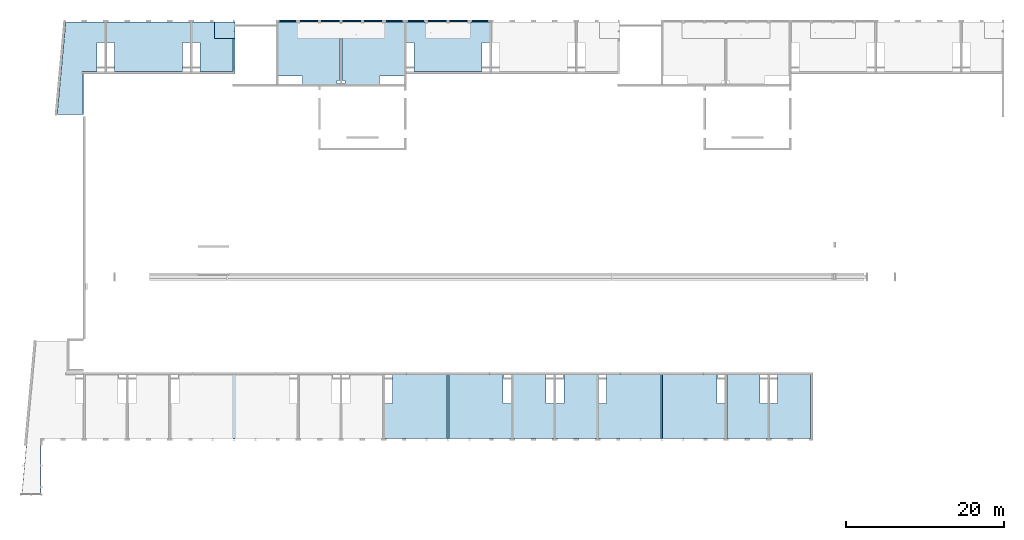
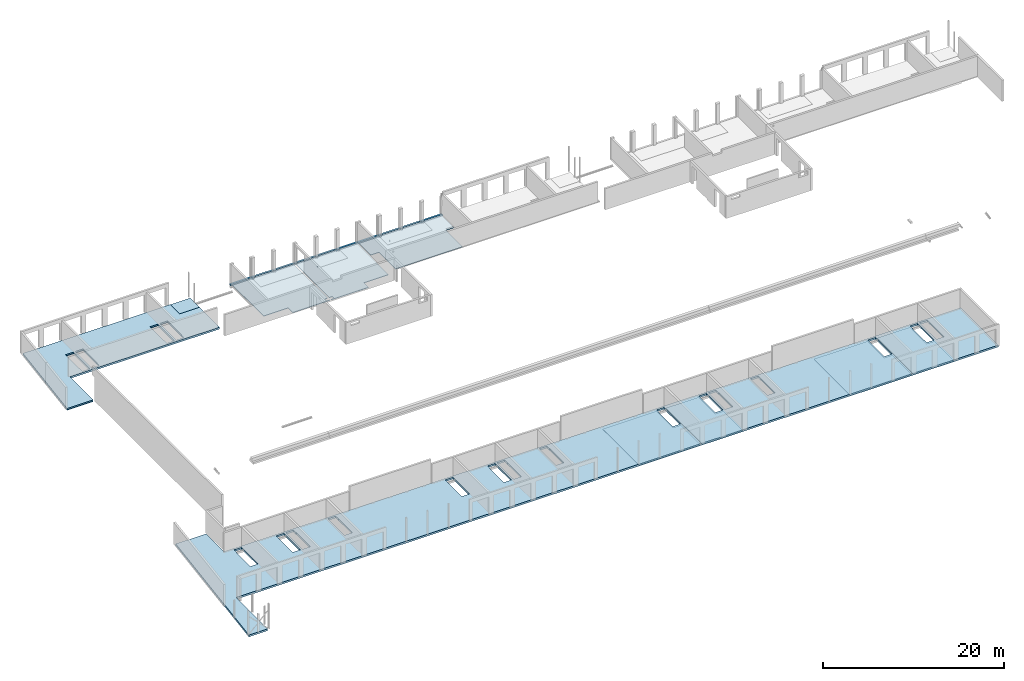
# One storey, part 12 of 22: 22 slabs, 41 openings.
"""IFC2X3 building model written with IfcOpenShell, lengths in millimetres."""

from ifc_helpers import new_model, entity, si_unit, converted_unit, derived_unit, direction, frame, frame_2d, origin, origin_2d_with_axis, place, context, subcontext, project, spatial, polyline, rectangle, circle, outline, extrude, material, layer, layer_set, layer_usage, element, save


model = new_model("IFC2X3")

# Units and contexts
model_context = context("Model", 3, precision=0.01, world=origin(), true_north=direction((6.12303176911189e-17, 1.0)))
body_context = subcontext(model_context, "Body", "Model", "MODEL_VIEW")
ifc_project = project(units=[si_unit("LENGTHUNIT", "METRE", prefix="MILLI"), si_unit("AREAUNIT", "SQUARE_METRE"), si_unit("VOLUMEUNIT", "CUBIC_METRE"), converted_unit("PLANEANGLEUNIT", "DEGREE", entity("IfcRatioMeasure", 0.0174532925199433), si_unit("PLANEANGLEUNIT", "RADIAN"), dimensions=[0, 0, 0, 0, 0, 0, 0]), si_unit("MASSUNIT", "GRAM", prefix="KILO"), derived_unit("MASSDENSITYUNIT", [(si_unit("MASSUNIT", "GRAM", prefix="KILO"), 1), (si_unit("LENGTHUNIT", "METRE"), -3)]), si_unit("TIMEUNIT", "SECOND"), si_unit("FREQUENCYUNIT", "HERTZ"), si_unit("THERMODYNAMICTEMPERATUREUNIT", "DEGREE_CELSIUS"), derived_unit("THERMALTRANSMITTANCEUNIT", [(si_unit("MASSUNIT", "GRAM", prefix="KILO"), 1), (si_unit("THERMODYNAMICTEMPERATUREUNIT", "KELVIN"), -1), (si_unit("TIMEUNIT", "SECOND"), -3)]), derived_unit("VOLUMETRICFLOWRATEUNIT", [(si_unit("LENGTHUNIT", "METRE"), 3), (si_unit("TIMEUNIT", "SECOND"), -1)]), si_unit("ELECTRICCURRENTUNIT", "AMPERE"), si_unit("ELECTRICVOLTAGEUNIT", "VOLT"), si_unit("POWERUNIT", "WATT"), si_unit("FORCEUNIT", "NEWTON", prefix="KILO"), si_unit("ILLUMINANCEUNIT", "LUX"), si_unit("LUMINOUSFLUXUNIT", "LUMEN"), si_unit("LUMINOUSINTENSITYUNIT", "CANDELA"), derived_unit("USERDEFINED", [(si_unit("MASSUNIT", "GRAM", prefix="KILO"), -1), (si_unit("LENGTHUNIT", "METRE"), -2), (si_unit("TIMEUNIT", "SECOND"), 3), (si_unit("LUMINOUSFLUXUNIT", "LUMEN"), 1)]), derived_unit("LINEARVELOCITYUNIT", [(si_unit("LENGTHUNIT", "METRE"), 1), (si_unit("TIMEUNIT", "SECOND"), -1)]), si_unit("PRESSUREUNIT", "PASCAL"), derived_unit("USERDEFINED", [(si_unit("LENGTHUNIT", "METRE"), -2), (si_unit("MASSUNIT", "GRAM", prefix="KILO"), 1), (si_unit("TIMEUNIT", "SECOND"), -2)])], contexts=[model_context])

# Site, building, storey
site_placement = place(None, origin())
site = spatial("IfcSite", under=ifc_project, at=site_placement, Name="Default", CompositionType="ELEMENT")
building_placement = place(site_placement, origin())
building = spatial("IfcBuilding", under=site, at=building_placement, Name="niet gebruiken", CompositionType="ELEMENT")
storey_placement = place(building_placement, frame((0.0, 0.0, 9630.0)))
storey = spatial("IfcBuildingStorey", under=building, at=storey_placement, Name="03 derde verdieping", CompositionType="ELEMENT", Elevation=9630.00000000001)

# Slab, openings
ifc_material_1 = material(Name="NLRS_f2_beton ihwg")
ifc_layer_1 = layer(ifc_material_1, 250.0)
ifc_layer_set_1 = layer_set([ifc_layer_1], Name="Floor:NLRS_23.21_FL_breedplaat d=70/250_schil apart_gen")
ifc_layer_usage_1 = layer_usage(ifc_layer_set_1, "AXIS3", "POSITIVE", 0.0)
slab_1_placement = place(storey_placement, frame((4646.95563217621, 41336.0, -340.0)))
slab_1 = element("IfcSlab", 1, at=slab_1_placement, inside=storey, material=ifc_layer_usage_1, Name="Floor:NLRS_23.21_FL_breedplaat d=70/250_schil apart_gen", ObjectType="Floor:NLRS_23.21_FL_breedplaat d=70/250_schil apart_gen", PredefinedType="FLOOR", context=body_context, shape_type="SweptSolid", body=[
    extrude(outline(polyline([(10144.7710298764, 5835.0), (-8671.52218391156, 5835.0), (-8671.52218391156, 3755.0), (-11226.5221839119, 3755.0), (-11226.5221839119, -675.0), (7898.4778160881, -675.0), (7898.47781608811, -5835.0), (11226.5221839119, -5835.0), (10144.7710298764, 5835.0)])), frame((11226.5221839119, 5835.0, 250.0), z_axis=(0.0, 0.0, -1.0), x_axis=(-1.0, 0.0, 0.0)), (0.0, 0.0, 1.0), 249.999999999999),
])
opening_1_placement = place(slab_1_placement, origin())
element("IfcOpeningElement", 2, at=opening_1_placement, cuts=slab_1, ObjectType="Opening", context=body_context, shape_type="SweptSolid", body=[
    extrude(rectangle(XDim=580.000000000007, YDim=970.0, at=origin_2d_with_axis()), frame((6763.04436782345, 5700.0, 0.0), z_axis=(0.0, 0.0, 1.0), x_axis=(0.0, -1.0, 0.0)), (0.0, 0.0, 1.0), 249.999999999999),
])
opening_2_placement = place(slab_1_placement, origin())
element("IfcOpeningElement", 3, at=opening_2_placement, cuts=slab_1, ObjectType="Opening", context=body_context, shape_type="SweptSolid", body=[
    extrude(rectangle(XDim=1000.0, YDim=3100.00000000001, at=origin_2d_with_axis()), frame((6778.04436782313, 7540.0, 0.0), z_axis=(0.0, 0.0, 1.0), x_axis=(-1.0, 0.0, 0.0)), (0.0, 0.0, 1.0), 250.000000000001),
])
opening_3_placement = place(slab_1_placement, origin())
element("IfcOpeningElement", 4, at=opening_3_placement, cuts=slab_1, ObjectType="Opening", context=body_context, shape_type="SweptSolid", body=[
    extrude(rectangle(XDim=580.000000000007, YDim=970.000000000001, at=origin_2d_with_axis()), frame((5543.04436782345, 5700.0, 0.0), z_axis=(0.0, 0.0, 1.0), x_axis=(0.0, -1.0, 0.0)), (0.0, 0.0, 1.0), 249.999999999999),
])
opening_4_placement = place(slab_1_placement, origin())
element("IfcOpeningElement", 5, at=opening_4_placement, cuts=slab_1, ObjectType="Opening", context=body_context, shape_type="SweptSolid", body=[
    extrude(rectangle(XDim=1000.0, YDim=3100.00000000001, at=origin_2d_with_axis()), frame((5528.04436782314, 7540.0, 0.0), z_axis=(0.0, 0.0, 1.0), x_axis=(-1.0, 0.0, 0.0)), (0.0, 0.0, 1.0), 250.000000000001),
])
opening_5_placement = place(slab_1_placement, origin())
element("IfcOpeningElement", 6, at=opening_5_placement, cuts=slab_1, ObjectType="Opening", context=body_context, shape_type="SweptSolid", body=[
    extrude(rectangle(XDim=580.000000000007, YDim=970.0, at=origin_2d_with_axis()), frame((17563.0443678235, 5700.0, 0.0), z_axis=(0.0, 0.0, 1.0), x_axis=(0.0, -1.0, 0.0)), (0.0, 0.0, 1.0), 249.999999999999),
])
opening_6_placement = place(slab_1_placement, origin())
element("IfcOpeningElement", 7, at=opening_6_placement, cuts=slab_1, ObjectType="Opening", context=body_context, shape_type="SweptSolid", body=[
    extrude(rectangle(XDim=1000.0, YDim=3100.00000000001, at=origin_2d_with_axis()), frame((17578.0443678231, 7540.0, 0.0), z_axis=(0.0, 0.0, 1.0), x_axis=(-1.0, 0.0, 0.0)), (0.0, 0.0, 1.0), 250.000000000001),
])
opening_7_placement = place(slab_1_placement, origin())
element("IfcOpeningElement", 8, at=opening_7_placement, cuts=slab_1, ObjectType="Opening", context=body_context, shape_type="SweptSolid", body=[
    extrude(rectangle(XDim=1000.0, YDim=3100.00000000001, at=origin_2d_with_axis()), frame((16328.0443678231, 7540.0, 0.0), z_axis=(0.0, 0.0, 1.0), x_axis=(-1.0, 0.0, 0.0)), (0.0, 0.0, 1.0), 250.000000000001),
])
opening_8_placement = place(slab_1_placement, origin())
element("IfcOpeningElement", 9, at=opening_8_placement, cuts=slab_1, ObjectType="Opening", context=body_context, shape_type="SweptSolid", body=[
    extrude(rectangle(XDim=580.000000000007, YDim=970.0, at=origin_2d_with_axis()), frame((16343.0443678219, 5700.0, 0.0), z_axis=(0.0, 0.0, 1.0), x_axis=(0.0, -1.0, 0.0)), (0.0, 0.0, 1.0), 249.999999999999),
])

ifc_layer_usage_2 = layer_usage(ifc_layer_set_1, "AXIS3", "POSITIVE", 0.0)
slab_2_placement = place(storey_placement, frame((205.382258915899, -6580.0, -340.0)))
slab_2 = element("IfcSlab", 10, at=slab_2_placement, inside=storey, material=ifc_layer_usage_2, Name="Floor:NLRS_23.21_FL_breedplaat d=70/250_schil apart_gen", ObjectType="Floor:NLRS_23.21_FL_breedplaat d=70/250_schil apart_gen", PredefinedType="FLOOR", context=body_context, shape_type="SweptSolid", body=[
    extrude(outline(polyline([(50293.3272470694, -7627.45000057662), (48505.1598974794, 11663.5499994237), (44623.7095059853, 11663.5499994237), (44623.7095059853, 7698.54999942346), (-49526.2904940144, 7698.54999942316), (-49526.2904940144, -647.450000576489), (47898.7095059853, -647.450000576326), (47898.7095059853, -7627.45000057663), (50293.3272470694, -7627.45000057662)])), frame((50293.3272470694, 7627.45000057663, 250.0), z_axis=(0.0, 0.0, -1.0), x_axis=(-1.0, 0.0, 0.0)), (0.0, 0.0, 1.0), 250.000000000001),
])
opening_9_placement = place(slab_2_placement, origin())
element("IfcOpeningElement", 11, at=opening_9_placement, cuts=slab_2, ObjectType="Opening", context=body_context, shape_type="SweptSolid", body=[
    extrude(rectangle(XDim=3100.0, YDim=1000.0, at=origin_2d_with_axis()), frame((7269.61774108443, 12946.0, 0.0), z_axis=(0.0, 0.0, 1.0), x_axis=(0.0, 1.0, 0.0)), (0.0, 0.0, 1.0), 250.000000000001),
])
opening_10_placement = place(slab_2_placement, origin())
element("IfcOpeningElement", 12, at=opening_10_placement, cuts=slab_2, ObjectType="Opening", context=body_context, shape_type="SweptSolid", body=[
    extrude(rectangle(XDim=970.000000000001, YDim=580.000000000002, at=origin_2d_with_axis()), frame((7284.61774108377, 14786.0, 0.0)), (0.0, 0.0, 1.0), 249.999999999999),
])
opening_11_placement = place(slab_2_placement, origin())
element("IfcOpeningElement", 13, at=opening_11_placement, cuts=slab_2, ObjectType="Opening", context=body_context, shape_type="SweptSolid", body=[
    extrude(rectangle(XDim=3100.0, YDim=1000.0, at=origin_2d_with_axis()), frame((12669.6177410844, 12946.0, 0.0), z_axis=(0.0, 0.0, 1.0), x_axis=(0.0, 1.0, 0.0)), (0.0, 0.0, 1.0), 250.000000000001),
])
opening_12_placement = place(slab_2_placement, origin())
element("IfcOpeningElement", 14, at=opening_12_placement, cuts=slab_2, ObjectType="Opening", context=body_context, shape_type="SweptSolid", body=[
    extrude(rectangle(XDim=970.0, YDim=580.000000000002, at=origin_2d_with_axis()), frame((12684.6177410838, 14786.0, 0.0)), (0.0, 0.0, 1.0), 249.999999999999),
])
opening_13_placement = place(slab_2_placement, origin())
element("IfcOpeningElement", 15, at=opening_13_placement, cuts=slab_2, ObjectType="Opening", context=body_context, shape_type="SweptSolid", body=[
    extrude(rectangle(XDim=3100.0, YDim=1000.0, at=origin_2d_with_axis()), frame((13919.6177410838, 12946.0, 0.0), z_axis=(0.0, 0.0, 1.0), x_axis=(0.0, 1.0, 0.0)), (0.0, 0.0, 1.0), 250.000000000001),
])
opening_14_placement = place(slab_2_placement, origin())
element("IfcOpeningElement", 16, at=opening_14_placement, cuts=slab_2, ObjectType="Opening", context=body_context, shape_type="SweptSolid", body=[
    extrude(rectangle(XDim=970.0, YDim=580.000000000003, at=origin_2d_with_axis()), frame((13904.6177410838, 14786.0, 0.0)), (0.0, 0.0, 1.0), 249.999999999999),
])
opening_15_placement = place(slab_2_placement, origin())
element("IfcOpeningElement", 17, at=opening_15_placement, cuts=slab_2, ObjectType="Opening", context=body_context, shape_type="SweptSolid", body=[
    extrude(rectangle(XDim=3100.0, YDim=1000.0, at=origin_2d_with_axis()), frame((19319.6177410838, 12946.0, 0.0), z_axis=(0.0, 0.0, 1.0), x_axis=(0.0, 1.0, 0.0)), (0.0, 0.0, 1.0), 250.000000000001),
])
opening_16_placement = place(slab_2_placement, origin())
element("IfcOpeningElement", 18, at=opening_16_placement, cuts=slab_2, ObjectType="Opening", context=body_context, shape_type="SweptSolid", body=[
    extrude(rectangle(XDim=970.0, YDim=580.000000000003, at=origin_2d_with_axis()), frame((19304.6177410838, 14786.0, 0.0)), (0.0, 0.0, 1.0), 249.999999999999),
])
opening_17_placement = place(slab_2_placement, origin())
element("IfcOpeningElement", 19, at=opening_17_placement, cuts=slab_2, ObjectType="Opening", context=body_context, shape_type="SweptSolid", body=[
    extrude(rectangle(XDim=3100.0, YDim=1000.0, at=origin_2d_with_axis()), frame((34269.6177410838, 12946.0, 0.0), z_axis=(0.0, 0.0, 1.0), x_axis=(0.0, 1.0, 0.0)), (0.0, 0.0, 1.0), 250.000000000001),
])
opening_18_placement = place(slab_2_placement, origin())
element("IfcOpeningElement", 20, at=opening_18_placement, cuts=slab_2, ObjectType="Opening", context=body_context, shape_type="SweptSolid", body=[
    extrude(rectangle(XDim=970.0, YDim=580.000000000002, at=origin_2d_with_axis()), frame((34284.6177410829, 14786.0, 0.0)), (0.0, 0.0, 1.0), 249.999999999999),
])
opening_19_placement = place(slab_2_placement, origin())
element("IfcOpeningElement", 21, at=opening_19_placement, cuts=slab_2, ObjectType="Opening", context=body_context, shape_type="SweptSolid", body=[
    extrude(rectangle(XDim=3100.0, YDim=999.999999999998, at=origin_2d_with_axis()), frame((39669.6177410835, 12946.0, 0.0), z_axis=(0.0, 0.0, 1.0), x_axis=(0.0, 1.0, 0.0)), (0.0, 0.0, 1.0), 250.000000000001),
])
opening_20_placement = place(slab_2_placement, origin())
element("IfcOpeningElement", 22, at=opening_20_placement, cuts=slab_2, ObjectType="Opening", context=body_context, shape_type="SweptSolid", body=[
    extrude(rectangle(XDim=970.000000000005, YDim=580.000000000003, at=origin_2d_with_axis()), frame((39684.6177410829, 14786.0, 0.0)), (0.0, 0.0, 1.0), 249.999999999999),
])
opening_21_placement = place(slab_2_placement, origin())
element("IfcOpeningElement", 23, at=opening_21_placement, cuts=slab_2, ObjectType="Opening", context=body_context, shape_type="SweptSolid", body=[
    extrude(rectangle(XDim=3100.0, YDim=999.999999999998, at=origin_2d_with_axis()), frame((40919.6177410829, 12946.0, 0.0), z_axis=(0.0, 0.0, 1.0), x_axis=(0.0, 1.0, 0.0)), (0.0, 0.0, 1.0), 250.000000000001),
])
opening_22_placement = place(slab_2_placement, origin())
element("IfcOpeningElement", 24, at=opening_22_placement, cuts=slab_2, ObjectType="Opening", context=body_context, shape_type="SweptSolid", body=[
    extrude(rectangle(XDim=970.000000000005, YDim=580.000000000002, at=origin_2d_with_axis()), frame((40904.6177410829, 14786.0, 0.0)), (0.0, 0.0, 1.0), 249.999999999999),
])
opening_23_placement = place(slab_2_placement, origin())
element("IfcOpeningElement", 25, at=opening_23_placement, cuts=slab_2, ObjectType="Opening", context=body_context, shape_type="SweptSolid", body=[
    extrude(rectangle(XDim=3100.0, YDim=999.999999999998, at=origin_2d_with_axis()), frame((46319.6177410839, 12946.0, 0.0), z_axis=(0.0, 0.0, 1.0), x_axis=(0.0, 1.0, 0.0)), (0.0, 0.0, 1.0), 250.000000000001),
])
opening_24_placement = place(slab_2_placement, origin())
element("IfcOpeningElement", 26, at=opening_24_placement, cuts=slab_2, ObjectType="Opening", context=body_context, shape_type="SweptSolid", body=[
    extrude(rectangle(XDim=970.000000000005, YDim=580.000000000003, at=origin_2d_with_axis()), frame((46304.6177410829, 14786.0, 0.0)), (0.0, 0.0, 1.0), 249.999999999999),
])
opening_25_placement = place(slab_2_placement, origin())
element("IfcOpeningElement", 27, at=opening_25_placement, cuts=slab_2, ObjectType="Opening", context=body_context, shape_type="SweptSolid", body=[
    extrude(rectangle(XDim=3100.0, YDim=999.999999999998, at=origin_2d_with_axis()), frame((61269.6177410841, 12946.0, 0.0), z_axis=(0.0, 0.0, 1.0), x_axis=(0.0, 1.0, 0.0)), (0.0, 0.0, 1.0), 250.000000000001),
])
opening_26_placement = place(slab_2_placement, origin())
element("IfcOpeningElement", 28, at=opening_26_placement, cuts=slab_2, ObjectType="Opening", context=body_context, shape_type="SweptSolid", body=[
    extrude(rectangle(XDim=970.000000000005, YDim=580.000000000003, at=origin_2d_with_axis()), frame((61284.6177410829, 14786.0, 0.0)), (0.0, 0.0, 1.0), 249.999999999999),
])
opening_27_placement = place(slab_2_placement, origin())
element("IfcOpeningElement", 29, at=opening_27_placement, cuts=slab_2, ObjectType="Opening", context=body_context, shape_type="SweptSolid", body=[
    extrude(rectangle(XDim=3100.0, YDim=999.999999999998, at=origin_2d_with_axis()), frame((66669.6177410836, 12946.0, 0.0), z_axis=(0.0, 0.0, 1.0), x_axis=(0.0, 1.0, 0.0)), (0.0, 0.0, 1.0), 250.000000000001),
])
opening_28_placement = place(slab_2_placement, origin())
element("IfcOpeningElement", 30, at=opening_28_placement, cuts=slab_2, ObjectType="Opening", context=body_context, shape_type="SweptSolid", body=[
    extrude(rectangle(XDim=970.000000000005, YDim=580.000000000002, at=origin_2d_with_axis()), frame((66684.6177410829, 14786.0, 0.0)), (0.0, 0.0, 1.0), 249.999999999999),
])
opening_29_placement = place(slab_2_placement, origin())
element("IfcOpeningElement", 31, at=opening_29_placement, cuts=slab_2, ObjectType="Opening", context=body_context, shape_type="SweptSolid", body=[
    extrude(rectangle(XDim=3100.0, YDim=999.999999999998, at=origin_2d_with_axis()), frame((67919.6177410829, 12946.0, 0.0), z_axis=(0.0, 0.0, 1.0), x_axis=(0.0, 1.0, 0.0)), (0.0, 0.0, 1.0), 250.000000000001),
])
opening_30_placement = place(slab_2_placement, origin())
element("IfcOpeningElement", 32, at=opening_30_placement, cuts=slab_2, ObjectType="Opening", context=body_context, shape_type="SweptSolid", body=[
    extrude(rectangle(XDim=970.000000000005, YDim=580.000000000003, at=origin_2d_with_axis()), frame((67904.6177410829, 14786.0, 0.0)), (0.0, 0.0, 1.0), 249.999999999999),
])
opening_31_placement = place(slab_2_placement, origin())
element("IfcOpeningElement", 33, at=opening_31_placement, cuts=slab_2, ObjectType="Opening", context=body_context, shape_type="SweptSolid", body=[
    extrude(rectangle(XDim=3100.0, YDim=999.999999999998, at=origin_2d_with_axis()), frame((73319.6177410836, 12946.0, 0.0), z_axis=(0.0, 0.0, 1.0), x_axis=(0.0, 1.0, 0.0)), (0.0, 0.0, 1.0), 250.000000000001),
])
opening_32_placement = place(slab_2_placement, origin())
element("IfcOpeningElement", 34, at=opening_32_placement, cuts=slab_2, ObjectType="Opening", context=body_context, shape_type="SweptSolid", body=[
    extrude(rectangle(XDim=970.000000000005, YDim=580.000000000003, at=origin_2d_with_axis()), frame((73304.6177410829, 14786.0, 0.0)), (0.0, 0.0, 1.0), 249.999999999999),
])
opening_33_placement = place(slab_2_placement, origin())
element("IfcOpeningElement", 35, at=opening_33_placement, cuts=slab_2, ObjectType="Opening", context=body_context, shape_type="SweptSolid", body=[
    extrude(rectangle(XDim=3100.0, YDim=999.999999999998, at=origin_2d_with_axis()), frame((88269.6177410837, 12946.0, 0.0), z_axis=(0.0, 0.0, 1.0), x_axis=(0.0, 1.0, 0.0)), (0.0, 0.0, 1.0), 250.000000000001),
])
opening_34_placement = place(slab_2_placement, origin())
element("IfcOpeningElement", 36, at=opening_34_placement, cuts=slab_2, ObjectType="Opening", context=body_context, shape_type="SweptSolid", body=[
    extrude(rectangle(XDim=970.000000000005, YDim=580.000000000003, at=origin_2d_with_axis()), frame((88284.6177410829, 14786.0, 0.0)), (0.0, 0.0, 1.0), 249.999999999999),
])
opening_35_placement = place(slab_2_placement, origin())
element("IfcOpeningElement", 37, at=opening_35_placement, cuts=slab_2, ObjectType="Opening", context=body_context, shape_type="SweptSolid", body=[
    extrude(rectangle(XDim=3100.0, YDim=999.999999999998, at=origin_2d_with_axis()), frame((94919.6177410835, 12946.0, 0.0), z_axis=(0.0, 0.0, 1.0), x_axis=(0.0, 1.0, 0.0)), (0.0, 0.0, 1.0), 250.000000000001),
])
opening_36_placement = place(slab_2_placement, origin())
element("IfcOpeningElement", 38, at=opening_36_placement, cuts=slab_2, ObjectType="Opening", context=body_context, shape_type="SweptSolid", body=[
    extrude(rectangle(XDim=970.000000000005, YDim=580.000000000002, at=origin_2d_with_axis()), frame((94904.6177410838, 14786.0, 0.0)), (0.0, 0.0, 1.0), 249.999999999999),
])
opening_37_placement = place(slab_2_placement, origin())
element("IfcOpeningElement", 39, at=opening_37_placement, cuts=slab_2, ObjectType="Opening", context=body_context, shape_type="SweptSolid", body=[
    extrude(rectangle(XDim=3100.0, YDim=999.999999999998, at=origin_2d_with_axis()), frame((93669.6177410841, 12946.0, 0.0), z_axis=(0.0, 0.0, 1.0), x_axis=(0.0, 1.0, 0.0)), (0.0, 0.0, 1.0), 250.000000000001),
])
opening_38_placement = place(slab_2_placement, origin())
element("IfcOpeningElement", 40, at=opening_38_placement, cuts=slab_2, ObjectType="Opening", context=body_context, shape_type="SweptSolid", body=[
    extrude(rectangle(XDim=970.000000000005, YDim=580.000000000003, at=origin_2d_with_axis()), frame((93684.6177410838, 14786.0, 0.0)), (0.0, 0.0, 1.0), 249.999999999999),
])

# Slabs
ifc_layer_2 = layer(ifc_material_1, 230.0)
ifc_layer_set_2 = layer_set([ifc_layer_2], Name="Floor:NLRS_23.21_FL_breedplaat d=50/230_schil apart_gen")
ifc_layer_usage_3 = layer_usage(ifc_layer_set_2, "AXIS3", "POSITIVE", 0.0)
slab_3_placement = place(storey_placement, frame((24545.0, 50926.0, -340.0)))
element("IfcSlab", 41, at=slab_3_placement, inside=storey, material=ifc_layer_usage_3, Name="Floor:NLRS_23.21_FL_breedplaat d=50/230_schil apart_gen", ObjectType="Floor:NLRS_23.21_FL_breedplaat d=50/230_schil apart_gen", PredefinedType="FLOOR", context=body_context, shape_type="SweptSolid", body=[
    extrude(rectangle(XDim=2080.00000000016, YDim=2555.00000000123, at=frame_2d((0.0, 0.0), x_axis=(0.0, 1.0))), frame((1277.50000000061, 1040.0, 230.0), z_axis=(0.0, 0.0, -1.0), x_axis=(-1.0, 0.0, 0.0)), (0.0, 0.0, 1.0), 230.0),
])
ifc_layer_3 = layer(ifc_material_1, 230.0)
ifc_layer_set_3 = layer_set([ifc_layer_3], Name="Floor:NLRS_23.21_FL_beton ihwg d=230_gen")
ifc_layer_usage_4 = layer_usage(ifc_layer_set_3, "AXIS3", "POSITIVE", 0.0)
slab_4_placement = place(storey_placement, frame((35305.0, 53006.0, -340.0)))
element("IfcSlab", 42, at=slab_4_placement, inside=storey, material=ifc_layer_usage_4, Name="Floor:NLRS_23.21_FL_beton ihwg d=230_gen", ObjectType="Floor:NLRS_23.21_FL_beton ihwg d=230_gen", PredefinedType="FLOOR", context=body_context, shape_type="SweptSolid", body=[
    extrude(rectangle(XDim=10390.0, YDim=250.000000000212, at=frame_2d((5400.0, 0.0), x_axis=(1.0, 0.0))), frame((10595.0, 125.0, 230.0), z_axis=(0.0, 0.0, -1.0), x_axis=(-1.0, 0.0, 0.0)), (0.0, 0.0, 1.0), 230.0),
])
slab_5_placement = place(storey_placement, frame((35305.0, 53006.0, -340.0)))
element("IfcSlab", 43, at=slab_5_placement, inside=storey, material=ifc_layer_usage_4, Name="Floor:NLRS_23.21_FL_beton ihwg d=230_gen:2", ObjectType="Floor:NLRS_23.21_FL_beton ihwg d=230_gen", PredefinedType="FLOOR", context=body_context, shape_type="SweptSolid", body=[
    extrude(rectangle(XDim=4990.00000000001, YDim=249.99999999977, at=frame_2d((-8100.0, 0.0), x_axis=(1.0, 0.0))), frame((10595.0, 125.0, 230.0), z_axis=(0.0, 0.0, -1.0), x_axis=(-1.0, 0.0, 0.0)), (0.0, 0.0, 1.0), 230.0),
])
ifc_layer_usage_5 = layer_usage(ifc_layer_set_1, "AXIS3", "POSITIVE", 0.0)
slab_6_placement = place(storey_placement, frame((32300.0, 53006.0, -340.0)))
element("IfcSlab", 44, at=slab_6_placement, inside=storey, material=ifc_layer_usage_5, Name="Floor:NLRS_23.21_FL_breedplaat d=70/250_schil apart_gen", ObjectType="Floor:NLRS_23.21_FL_breedplaat d=70/250_schil apart_gen", PredefinedType="FLOOR", context=body_context, shape_type="SweptSolid", body=[
    extrude(rectangle(XDim=2884.99999999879, YDim=250.000000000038, at=frame_2d((-12097.5, 0.0), x_axis=(-1.0, 0.0))), frame((13540.0, 125.0, 250.0), z_axis=(0.0, 0.0, -1.0), x_axis=(-1.0, 0.0, 0.0)), (0.0, 0.0, 1.0), 250.000000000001),
])
slab_7_placement = place(storey_placement, frame((32300.0, 53006.0, -340.0)))
element("IfcSlab", 45, at=slab_7_placement, inside=storey, material=ifc_layer_usage_5, Name="Floor:NLRS_23.21_FL_breedplaat d=70/250_schil apart_gen:2", ObjectType="Floor:NLRS_23.21_FL_breedplaat d=70/250_schil apart_gen", PredefinedType="FLOOR", context=body_context, shape_type="SweptSolid", body=[
    extrude(rectangle(XDim=250.00000000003, YDim=3004.99999999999, at=frame_2d((12037.4999999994, 0.0), x_axis=(0.0, 1.0))), frame((13540.0, 125.0, 250.0), z_axis=(0.0, 0.0, -1.0), x_axis=(-1.0, 0.0, 0.0)), (0.0, 0.0, 1.0), 250.000000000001),
])
slab_8_placement = place(storey_placement, frame((32300.0, 53006.0, -340.0)))
element("IfcSlab", 46, at=slab_8_placement, inside=storey, material=ifc_layer_usage_5, Name="Floor:NLRS_23.21_FL_breedplaat d=70/250_schil apart_gen:3", ObjectType="Floor:NLRS_23.21_FL_breedplaat d=70/250_schil apart_gen", PredefinedType="FLOOR", context=body_context, shape_type="SweptSolid", body=[
    extrude(rectangle(XDim=5810.0, YDim=250.000000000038, at=frame_2d((-2760.0, 0.0), x_axis=(1.0, 0.0))), frame((13540.0, 125.0, 250.0), z_axis=(0.0, 0.0, -1.0), x_axis=(-1.0, 0.0, 0.0)), (0.0, 0.0, 1.0), 250.000000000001),
])
ifc_material_2 = material(Name="NLRS_f2_beton prefab")
ifc_layer_4 = layer(ifc_material_2, 70.0)
ifc_layer_set_4 = layer_set([ifc_layer_4], Name="Floor:NLRS_23.21_FL_breedplaatschil d=70_gen")
ifc_layer_usage_6 = layer_usage(ifc_layer_set_4, "AXIS3", "POSITIVE", 0.0)
slab_9_placement = place(storey_placement, origin())
element("IfcSlab", 47, at=slab_9_placement, inside=storey, material=ifc_layer_usage_6, Name="Floor:NLRS_23.21_FL_breedplaatschil d=70_gen", ObjectType="Floor:NLRS_23.21_FL_breedplaatschil d=70_gen", PredefinedType="FLOOR", context=body_context, shape_type="SweptSolid", body=[
    extrude(outline(polyline([(-4164.0, -2070.0), (232.0, -2070.0), (232.0, -1050.0), (3932.0, -1050.0), (3932.0, 3120.0), (-4164.0, 3120.0), (-4164.0, -2070.0)])), frame((96675.0, 4584.0, -270.0), z_axis=(0.0, 0.0, -1.0), x_axis=(0.0, 1.0, 0.0)), (0.0, 0.0, 1.0), 70.0000000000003),
])
ifc_layer_usage_7 = layer_usage(ifc_layer_set_4, "AXIS3", "POSITIVE", 0.0)
slab_10_placement = place(storey_placement, origin())
element("IfcSlab", 48, at=slab_10_placement, inside=storey, material=ifc_layer_usage_7, Name="Floor:NLRS_23.21_FL_breedplaatschil d=70_gen", ObjectType="Floor:NLRS_23.21_FL_breedplaatschil d=70_gen", PredefinedType="FLOOR", context=body_context, shape_type="SweptSolid", body=[
    extrude(outline(polyline([(-4164.0, -3120.0), (3932.0, -3120.0), (3932.0, 1050.0), (232.0, 1050.0), (232.0, 2070.0), (-4164.0, 2070.0), (-4164.0, -3120.0)])), frame((65325.0, 4584.0, -270.0), z_axis=(0.0, 0.0, -1.0), x_axis=(0.0, 1.0, 0.0)), (0.0, 0.0, 1.0), 70.0000000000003),
])
ifc_layer_usage_8 = layer_usage(ifc_layer_set_4, "AXIS3", "POSITIVE", 0.0)
slab_11_placement = place(storey_placement, origin())
element("IfcSlab", 49, at=slab_11_placement, inside=storey, material=ifc_layer_usage_8, Name="Floor:NLRS_23.21_FL_breedplaatschil d=70_gen", ObjectType="Floor:NLRS_23.21_FL_breedplaatschil d=70_gen", PredefinedType="FLOOR", context=body_context, shape_type="SweptSolid", body=[
    extrude(outline(polyline([(-4164.0, -2070.0), (232.0, -2070.0), (232.0, -1050.0), (3932.0, -1050.0), (3932.0, 3120.0), (-4164.0, 3120.0), (-4164.0, -2070.0)])), frame((69675.0, 4584.0, -270.0), z_axis=(0.0, 0.0, -1.0), x_axis=(0.0, 1.0, 0.0)), (0.0, 0.0, 1.0), 70.0000000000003),
])
ifc_layer_usage_9 = layer_usage(ifc_layer_set_4, "AXIS3", "POSITIVE", 0.0)
slab_12_placement = place(storey_placement, origin())
element("IfcSlab", 50, at=slab_12_placement, inside=storey, material=ifc_layer_usage_9, Name="Floor:NLRS_23.21_FL_breedplaatschil d=70_gen", ObjectType="Floor:NLRS_23.21_FL_breedplaatschil d=70_gen", PredefinedType="FLOOR", context=body_context, shape_type="SweptSolid", body=[
    extrude(outline(polyline([(-4164.0, -3120.0), (3932.0, -3120.0), (3932.0, 1050.0), (232.0, 1050.0), (232.0, 2070.0), (-4164.0, 2070.0), (-4164.0, -3120.0)])), frame((92325.0, 4584.0, -270.0), z_axis=(0.0, 0.0, -1.0), x_axis=(0.0, 1.0, 0.0)), (0.0, 0.0, 1.0), 70.0000000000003),
])
ifc_layer_usage_10 = layer_usage(ifc_layer_set_4, "AXIS3", "POSITIVE", 0.0)
slab_13_placement = place(storey_placement, origin())
element("IfcSlab", 51, at=slab_13_placement, inside=storey, material=ifc_layer_usage_10, Name="Floor:NLRS_23.21_FL_breedplaatschil d=70_gen", ObjectType="Floor:NLRS_23.21_FL_breedplaatschil d=70_gen", PredefinedType="FLOOR", context=body_context, shape_type="SweptSolid", body=[
    extrude(outline(polyline([(-4164.0, -2970.0), (232.0, -2970.0), (232.0, -1950.0), (3932.0, -1950.0), (3932.0, 4920.0), (-4164.0, 4920.0), (-4164.0, -2970.0)])), frame((48975.0, 4584.0, -270.0), z_axis=(0.0, 0.0, -1.0), x_axis=(0.0, 1.0, 0.0)), (0.0, 0.0, 1.0), 70.0000000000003),
])
ifc_layer_usage_11 = layer_usage(ifc_layer_set_4, "AXIS3", "POSITIVE", 0.0)
slab_14_placement = place(storey_placement, origin())
element("IfcSlab", 52, at=slab_14_placement, inside=storey, material=ifc_layer_usage_11, Name="Floor:NLRS_23.21_FL_breedplaatschil d=70_gen", ObjectType="Floor:NLRS_23.21_FL_breedplaatschil d=70_gen", PredefinedType="FLOOR", context=body_context, shape_type="SweptSolid", body=[
    extrude(outline(polyline([(-4164.0, -4920.0), (3932.0, -4920.0), (3932.0, 1950.0), (232.0, 1950.0), (232.0, 2970.0), (-4164.0, 2970.0), (-4164.0, -4920.0)])), frame((59025.0, 4584.0, -270.0), z_axis=(0.0, 0.0, -1.0), x_axis=(0.0, 1.0, 0.0)), (0.0, 0.0, 1.0), 70.0000000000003),
])
ifc_layer_usage_12 = layer_usage(ifc_layer_set_4, "AXIS3", "POSITIVE", 0.0)
slab_15_placement = place(storey_placement, origin())
element("IfcSlab", 53, at=slab_15_placement, inside=storey, material=ifc_layer_usage_12, Name="Floor:NLRS_23.21_FL_breedplaatschil d=70_gen", ObjectType="Floor:NLRS_23.21_FL_breedplaatschil d=70_gen", PredefinedType="FLOOR", context=body_context, shape_type="SweptSolid", body=[
    extrude(outline(polyline([(-4164.0, -2970.0), (232.0, -2970.0), (232.0, -1950.0), (3932.0, -1950.0), (3932.0, 4920.0), (-4164.0, 4920.0), (-4164.0, -2970.0)])), frame((75975.0, 4584.0, -270.0), z_axis=(0.0, 0.0, -1.0), x_axis=(0.0, 1.0, 0.0)), (0.0, 0.0, 1.0), 70.0000000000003),
])
ifc_layer_usage_13 = layer_usage(ifc_layer_set_4, "AXIS3", "POSITIVE", 0.0)
slab_16_placement = place(storey_placement, origin())
element("IfcSlab", 54, at=slab_16_placement, inside=storey, material=ifc_layer_usage_13, Name="Floor:NLRS_23.21_FL_breedplaatschil d=70_gen", ObjectType="Floor:NLRS_23.21_FL_breedplaatschil d=70_gen", PredefinedType="FLOOR", context=body_context, shape_type="SweptSolid", body=[
    extrude(outline(polyline([(-4164.0, -4920.0), (3932.0, -4920.0), (3932.0, 1950.0), (232.0, 1950.0), (232.0, 2970.0), (-4164.0, 2970.0), (-4164.0, -4920.0)])), frame((86025.0, 4584.0, -270.0), z_axis=(0.0, 0.0, -1.0), x_axis=(0.0, 1.0, 0.0)), (0.0, 0.0, 1.0), 70.0000000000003),
])
ifc_layer_usage_14 = layer_usage(ifc_layer_set_4, "AXIS3", "POSITIVE", 0.0)
slab_17_placement = place(storey_placement, origin())
element("IfcSlab", 55, at=slab_17_placement, inside=storey, material=ifc_layer_usage_14, Name="Floor:NLRS_23.21_FL_breedplaatschil d=70_gen", ObjectType="Floor:NLRS_23.21_FL_breedplaatschil d=70_gen", PredefinedType="FLOOR", context=body_context, shape_type="SweptSolid", body=[
    extrude(outline(polyline([(285.0, -5295.0), (2845.0, -5295.0), (2845.0, 5295.0), (285.0, 5295.0), (285.0, 4275.0), (-3415.0, 4275.0), (-3415.0, -4275.0), (285.0, -4275.0), (285.0, -5295.0)])), frame((16200.0, 50141.0, -270.0), z_axis=(0.0, 0.0, -1.0), x_axis=(0.0, 1.0, 0.0)), (0.0, 0.0, 1.0), 70.0000000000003),
])
ifc_layer_usage_15 = layer_usage(ifc_layer_set_4, "AXIS3", "POSITIVE", 0.0)
slab_18_placement = place(storey_placement, origin())
element("IfcSlab", 56, at=slab_18_placement, inside=storey, material=ifc_layer_usage_15, Name="Floor:NLRS_23.21_FL_breedplaatschil d=70_gen", ObjectType="Floor:NLRS_23.21_FL_breedplaatschil d=70_gen", PredefinedType="FLOOR", context=body_context, shape_type="SweptSolid", body=[
    extrude(outline(polyline([(380.0, -2061.66666666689), (2940.0, -2061.66666666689), (2940.0, 3103.33333333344), (-3320.0, 3103.33333333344), (-3320.0, -1041.66666666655), (380.0, -1041.66666666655), (380.0, -2061.66666666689)])), frame((23766.6666666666, 50046.0, -270.0), z_axis=(0.0, 0.0, -1.0), x_axis=(0.0, 1.0, 0.0)), (0.0, 0.0, 1.0), 70.0000000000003),
])

# Slab, opening
ifc_layer_usage_16 = layer_usage(ifc_layer_set_4, "AXIS3", "POSITIVE", 0.0)
slab_19_placement = place(storey_placement, frame((48705.0, 46726.0, -340.0)))
slab_19 = element("IfcSlab", 57, at=slab_19_placement, inside=storey, material=ifc_layer_usage_16, Name="Floor:NLRS_23.21_FL_breedplaatschil d=70_gen", ObjectType="Floor:NLRS_23.21_FL_breedplaatschil d=70_gen", PredefinedType="FLOOR", context=body_context, shape_type="SweptSolid", body=[
    extrude(outline(polyline([(2885.0, 3150.0), (2885.0, 2990.0), (2515.0, 2990.0), (2515.0, 3150.0), (185.0, 3150.0), (185.0, 2990.0), (-185.0, 2990.0), (-185.0, 3150.0), (-2515.0, 3150.0), (-2515.0, 2990.0), (-2885.0, 2990.0), (-2885.0, 3150.0), (-5295.0, 3150.0), (-5295.0, 550.0), (-4275.0, 550.0), (-4275.0, -3150.0), (4275.0, -3150.0), (4275.0, 550.0), (5295.0, 550.0), (5295.0, 3150.0), (2885.0, 3150.0)])), frame((5295.0, 3150.0, 70.0), z_axis=(0.0, 0.0, -1.0), x_axis=(-1.0, 0.0, 0.0)), (0.0, 0.0, 1.0), 70.0000000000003),
])
opening_39_placement = place(storey_placement, frame((48705.0, 46726.0, -340.0)))
element("IfcOpeningElement", 58, at=opening_39_placement, cuts=slab_19, ObjectType="Opening", context=body_context, shape_type="SweptSolid", body=[
    extrude(circle(Radius=37.5, at=frame_2d((2200.0, 1780.0), x_axis=(1.0, 0.0))), frame((5295.0, 3150.0, 70.0), z_axis=(0.0, 0.0, -1.0), x_axis=(-1.0, 0.0, 0.0)), (0.0, 0.0, 1.0), 70.0000000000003),
])

# Slab
ifc_layer_usage_17 = layer_usage(ifc_layer_set_4, "AXIS3", "POSITIVE", 0.0)
slab_20_placement = place(storey_placement, origin())
element("IfcSlab", 59, at=slab_20_placement, inside=storey, material=ifc_layer_usage_17, Name="Floor:NLRS_23.21_FL_breedplaatschil d=70_gen", ObjectType="Floor:NLRS_23.21_FL_breedplaatschil d=70_gen", PredefinedType="FLOOR", context=body_context, shape_type="SweptSolid", body=[
    extrude(outline(polyline([(-3827.0, -4981.0), (3043.0, -4981.0), (3043.0, -2596.0), (2883.0, -2596.0), (2883.0, -2226.0), (3043.0, -2226.0), (3043.0, 104.0), (2883.0, 104.0), (2883.0, 474.0), (3043.0, 474.0), (3043.0, 2804.0), (2883.0, 2804.0), (2883.0, 2884.0), (-4377.0, 2884.0), (-4377.0, 2514.0), (-4727.0, 2514.0), (-4727.0, 2884.0), (-4847.0, 2884.0), (-4847.0, -1861.0), (-3827.0, -1861.0), (-3827.0, -4981.0)])), frame((37511.0, 49983.0, -270.0), z_axis=(0.0, 0.0, -1.0), x_axis=(0.0, 1.0, 0.0)), (0.0, 0.0, 1.0), 70.0000000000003),
])

# Slab, openings
ifc_layer_usage_18 = layer_usage(ifc_layer_set_4, "AXIS3", "POSITIVE", 0.0)
slab_21_placement = place(storey_placement, frame((40605.0, 45136.0, -340.0)))
slab_21 = element("IfcSlab", 60, at=slab_21_placement, inside=storey, material=ifc_layer_usage_18, Name="Floor:NLRS_23.21_FL_breedplaatschil d=70_gen", ObjectType="Floor:NLRS_23.21_FL_breedplaatschil d=70_gen", PredefinedType="FLOOR", context=body_context, shape_type="SweptSolid", body=[
    extrude(outline(polyline([(-1535.0, 3945.0), (-3945.0, 3945.0), (-3945.0, -2925.0), (-825.0, -2925.0), (-825.0, -3945.0), (3945.0, -3945.0), (3945.0, -3825.0), (3575.0, -3825.0), (3575.0, -3475.0), (3945.0, -3475.0), (3945.0, 3785.0), (3865.0, 3785.0), (3865.0, 3945.0), (1535.0, 3945.0), (1535.0, 3785.0), (1165.0, 3785.0), (1165.0, 3945.0), (-1165.0, 3945.0), (-1165.0, 3785.0), (-1535.0, 3785.0), (-1535.0, 3945.0)])), frame((3945.0, 3945.0, 70.0), z_axis=(0.0, 0.0, -1.0), x_axis=(-1.0, 0.0, 0.0)), (0.0, 0.0, 1.0), 70.0000000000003),
])
opening_40_placement = place(storey_placement, frame((40605.0, 45136.0, -340.0)))
element("IfcOpeningElement", 61, at=opening_40_placement, cuts=slab_21, ObjectType="Opening", context=body_context, shape_type="SweptSolid", body=[
    extrude(circle(Radius=37.5, at=frame_2d((2100.0, 2325.0), x_axis=(1.0, 0.0))), frame((3945.0, 3945.0, 70.0), z_axis=(0.0, 0.0, -1.0), x_axis=(-1.0, 0.0, 0.0)), (0.0, 0.0, 1.0), 70.0000000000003),
])
opening_41_placement = place(slab_21_placement, origin())
element("IfcOpeningElement", 62, at=opening_41_placement, cuts=slab_21, ObjectType="Opening", context=body_context, shape_type="SweptSolid", body=[
    extrude(rectangle(XDim=350.000000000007, YDim=349.999999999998, at=origin_2d_with_axis()), frame((195.0, 295.0, 0.0), z_axis=(0.0, 0.0, 1.0), x_axis=(0.0, -1.0, 0.0)), (0.0, 0.0, 1.0), 249.999999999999),
])

# Slab
ifc_layer_usage_19 = layer_usage(ifc_layer_set_4, "AXIS3", "POSITIVE", 0.0)
slab_22_placement = place(storey_placement, origin())
element("IfcSlab", 63, at=slab_22_placement, inside=storey, material=ifc_layer_usage_19, Name="Floor:NLRS_23.21_FL_breedplaatschil d=70_gen", ObjectType="Floor:NLRS_23.21_FL_breedplaatschil d=70_gen", PredefinedType="FLOOR", context=body_context, shape_type="SweptSolid", body=[
    extrude(outline(polyline([(312.397999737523, -6262.0), (3600.35662763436, -6262.0), (2520.45937446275, 5388.0), (-2427.60200026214, 5388.0), (-2427.60200026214, 2828.0), (-1407.6020002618, 2828.0), (-1407.60200026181, -872.0), (462.397999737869, -872.0), (462.397999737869, -1082.0), (312.397999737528, -1082.0), (312.397999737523, -6262.0)])), frame((8267.39799973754, 47598.0, -270.0), z_axis=(0.0, 0.0, -1.0), x_axis=(-1.0, 0.0, 0.0)), (0.0, 0.0, 1.0), 70.0000000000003),
])

save(model, "model.ifc")
